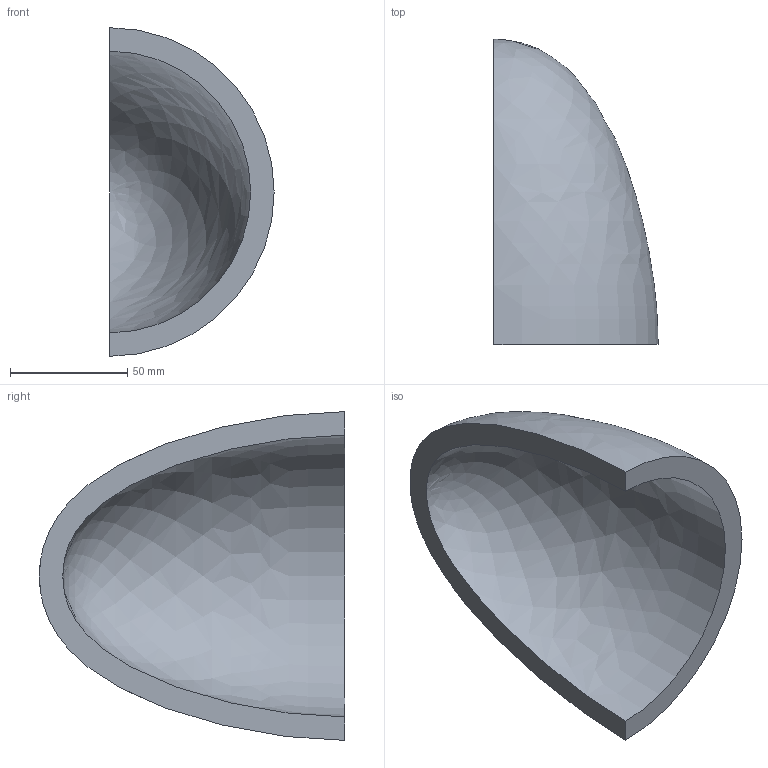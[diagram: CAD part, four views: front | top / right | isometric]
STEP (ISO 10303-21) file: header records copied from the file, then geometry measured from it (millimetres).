
FILE_DESCRIPTION(('CATIA V5 STEP Exchange'),'2;1');
FILE_NAME('C:\_Andres\UNIVERSIDAD\IQS\ASIGNATURAS\DAO\EXF\EXF-16172c\2inicio\Salazar_Martin_Ej10_v30.stp','2017-03-05T22:31:15+00:00',('none'),('none'),'CATIA Version 5-6 Release 2014 SP1 HF18','CATIA V5 STEP AP203','none');
FILE_SCHEMA(('CONFIG_CONTROL_DESIGN'));
Length unit declared in the file: millimetre
Products named in the file (1): Salazar_Martin_Ej10_v30
Bounding box: 70 x 130 x 140 mm (x, y, z)
Volume: 218756.5 mm3; surface area: 48962 mm2
Topology: 1 solids, 1 shells, 4 faces, 10 edges, 6 vertices
Faces by surface type: revolution 2, plane 2
Entity records: 248 total; most frequent: CARTESIAN_POINT 126, ORIENTED_EDGE 16, DIRECTION 10, EDGE_CURVE 8, B_SPLINE_CURVE_WITH_KNOTS 6, VERTEX_POINT 6, AXIS2_PLACEMENT_3D 5, ADVANCED_FACE 4
